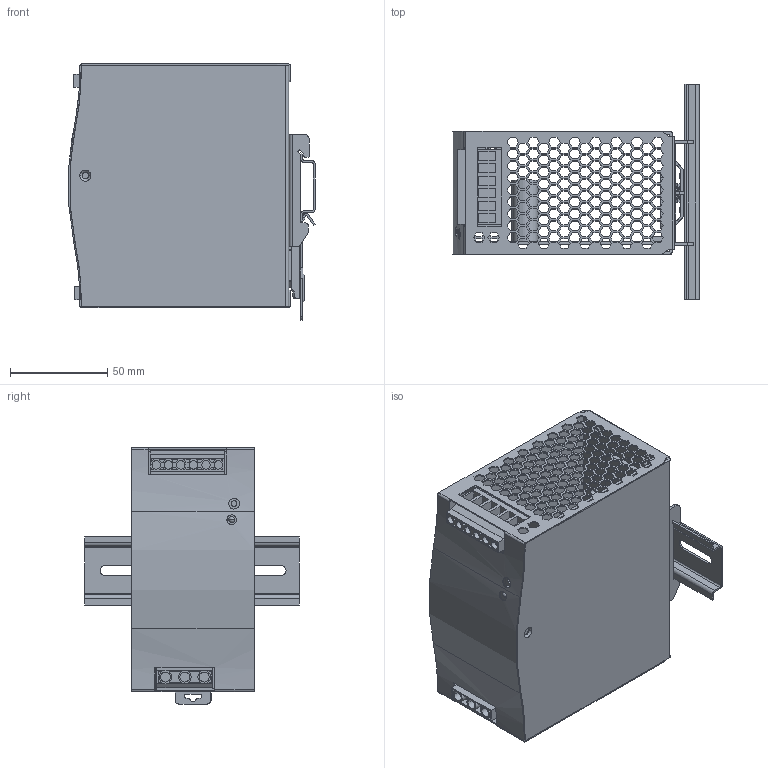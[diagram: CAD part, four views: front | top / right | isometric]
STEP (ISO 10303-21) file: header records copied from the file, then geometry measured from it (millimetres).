
FILE_DESCRIPTION(('Creo Elements/Direct Modeling STEP Export'),'2;1');
FILE_NAME('SDR-240-3D.stp','2024-07-23T11:27:04',(''),(''),'PTC Creo Elements/Direct Modeling STEP processor for AP214 (Solid Model)','PTC Creo Elements/Direct Modeling 19.0E 27-Jun-2016 (C) Parametric Technology GmbH','');
FILE_SCHEMA(('AUTOMOTIVE_DESIGN { 1 0 10303 214 1 1 1 1 }'));
Length unit declared in the file: millimetre
Products named in the file (23): 掛座DRP14_1; ˋ°Ûy_1; ¤ïÊl2_1; LED_1; VR_1; a2_1; 零件78_1; ¨ÃHS_1; ¤ïÊl_1; p2_1; p3_1; a1_1; pcb2_1; PCB2_1; PCB1_1; SDR-240-3D; SDR-240-3D.stp; p1.1; p3.2.1; 15.1; 挂座; DRP14-R4
Assembly tree (21 placements, depth 5):
  SDR-240-3D.stp
    SDR-240-3D
      PCB1_1
        PCB1_1
      PCB2_1
        pcb2_1
      a1_1
        p3_1
        p2_1
        ¤ïÊl_1
        ¨ÃHS_1
        零件78_1
        a2_1
          VR_1
          LED_1
        ¤ïÊl2_1
        ˋ°Ûy_1
      掛座DRP14_1
  DRP14-R4
    挂座
    15.1
    p3.2.1
    p1.1
Bounding box: 126.52 x 110.38 x 131.5 mm (x, y, z)
Volume: 153574.4 mm3; surface area: 199599.2 mm2
Topology: 15 solids, 15 shells, 2701 faces, 7781 edges, 5156 vertices
Faces by surface type: plane 2224, cylinder 356, cone 89, torus 30, bspline 2
Entity records: 207898 total; most frequent: CARTESIAN_POINT 134940, ORIENTED_EDGE 15562, DIRECTION 13610, EDGE_CURVE 7781, VECTOR 6828, LINE 6828, VERTEX_POINT 5156, EDGE_LOOP 3451
